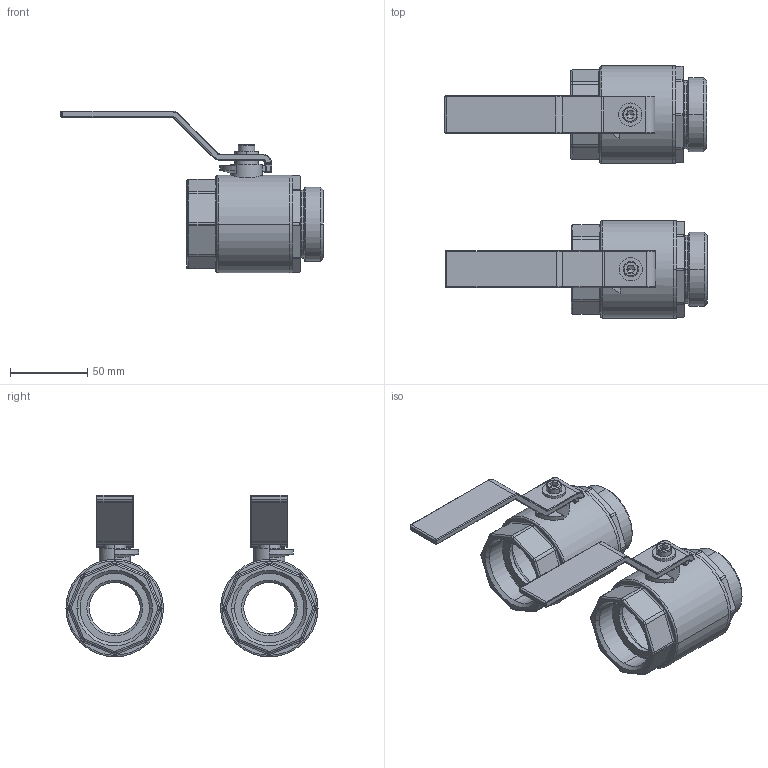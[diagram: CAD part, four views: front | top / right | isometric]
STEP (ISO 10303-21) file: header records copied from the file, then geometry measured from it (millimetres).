
FILE_DESCRIPTION (( 'STEP AP214' ), '1' );
FILE_NAME ('80921.STEP', '2022-11-21T09:45:50', ( '' ), ( '' ), 'SwSTEP 2.0', 'SolidWorks 2022', '' );
FILE_SCHEMA (( 'AUTOMOTIVE_DESIGN' ));
Length unit declared in the file: millimetre
Products named in the file (18): DIN 6912-M6x12-8.8_Zylinderkopfschrauben_0_2; NORMTEILE; Scheibe _X_D815 _X_F8 6.4 x2; Spindel; Scheibe _X_D815 _X_F8 6.4 x2_2; Einschraubteil 8-kant SW; Griff_2; Einschraubteil 8-kant SW_2; NORMTEILE_2; Griff; Spindel_2; Geh_X_E4use_2; Geh_X_E4use; 80921; 05 01 000452_05 01 000452_2; DIN 6912-M6x12-8.8_Zylinderkopfschrauben_0; O-Ring _X_D815x2.5; 05 01 000452_05 01 000452
Assembly tree (17 placements, depth 5):
  80921
    05 01 000452_05 01 000452
      Griff
      Geh_X_E4use
      NORMTEILE
        DIN 6912-M6x12-8.8_Zylinderkopfschrauben_0
        Scheibe _X_D815 _X_F8 6.4 x2
      Spindel
      Einschraubteil 8-kant SW
      05 01 000452_05 01 000452_2
        Griff_2
        Geh_X_E4use_2
        NORMTEILE_2
          O-Ring _X_D815x2.5
          DIN 6912-M6x12-8.8_Zylinderkopfschrauben_0_2
          Scheibe _X_D815 _X_F8 6.4 x2_2
        Spindel_2
        Einschraubteil 8-kant SW_2
Bounding box: 170 x 163 x 104.5 mm (x, y, z)
Volume: 235269.8 mm3; surface area: 108485 mm2
Topology: 13 solids, 13 shells, 698 faces, 1640 edges, 982 vertices
Faces by surface type: cylinder 282, plane 184, bspline 144, cone 88
Entity records: 33506 total; most frequent: CARTESIAN_POINT 9715, DIRECTION 3292, ORIENTED_EDGE 3240, EDGE_CURVE 1620, AXIS2_PLACEMENT_3D 1308, VERTEX_POINT 982, EDGE_LOOP 754, UNCERTAINTY_MEASURE_WITH_UNIT 742
